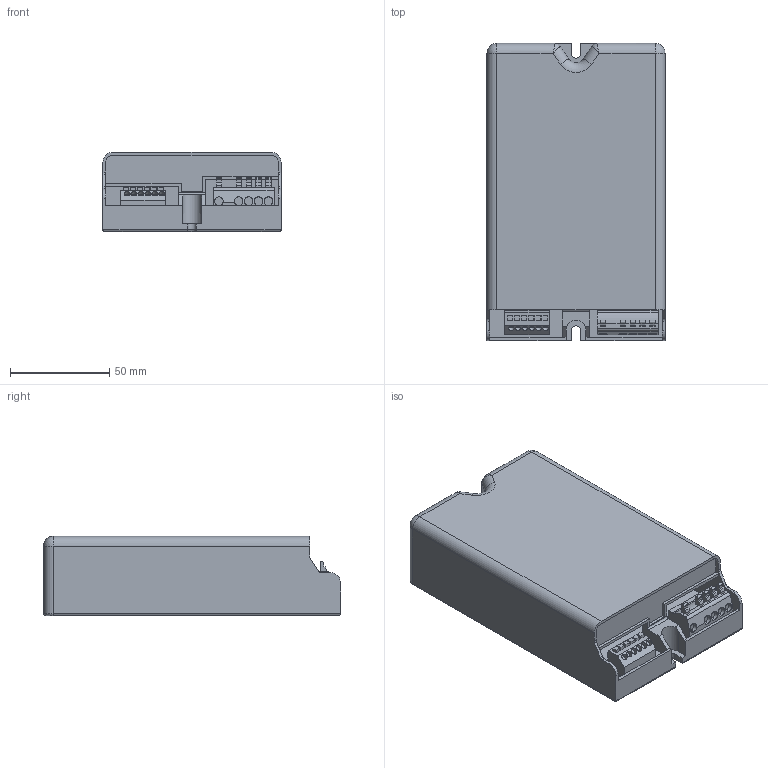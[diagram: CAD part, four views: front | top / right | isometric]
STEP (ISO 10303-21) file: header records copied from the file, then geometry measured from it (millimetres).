
FILE_DESCRIPTION((''),'2;1');
FILE_NAME('15009463Z_HYPE_150X90_DATAMEC','2015-06-17T',('juergen.hrach'),(''),'PRO/ENGINEER BY PARAMETRIC TECHNOLOGY CORPORATION, 2014000','PRO/ENGINEER BY PARAMETRIC TECHNOLOGY CORPORATION, 2014000','');
FILE_SCHEMA(('AUTOMOTIVE_DESIGN { 1 0 10303 214 1 1 1 1 }'));
Length unit declared in the file: millimetre
Products named in the file (1): 15009463Z_HYPE_150X90_DATAMEC
Bounding box: 90 x 150 x 40 mm (x, y, z)
Volume: 244072.6 mm3; surface area: 76771.2 mm2
Topology: 1 solids, 1 shells, 246 faces, 668 edges, 436 vertices
Faces by surface type: plane 164, cylinder 73, torus 5, sphere 2, bspline 2
Entity records: 10286 total; most frequent: CARTESIAN_POINT 1634, ORIENTED_EDGE 1336, DIRECTION 1259, PRESENTATION_STYLE_ASSIGNMENT 669, STYLED_ITEM 669, CURVE_STYLE 668, EDGE_CURVE 668, VECTOR 501
